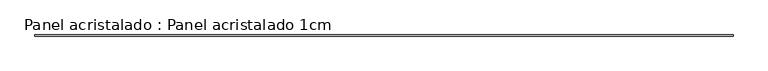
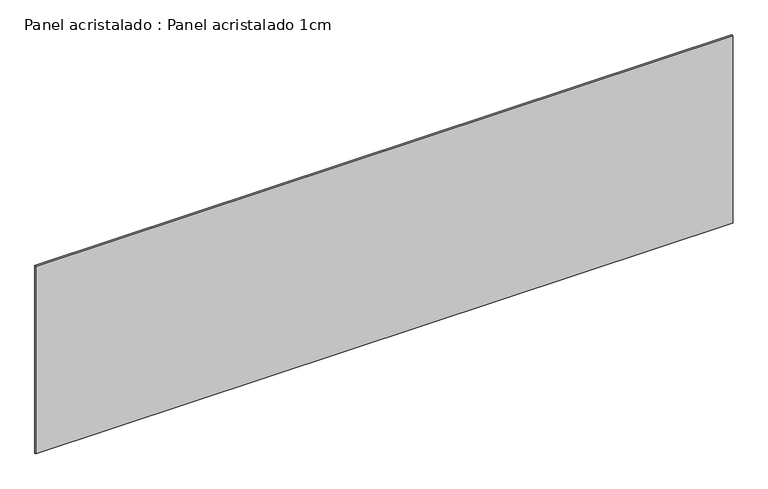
"""IFC4 building model written with IfcOpenShell, lengths in millimetres: plate geometry, Panel acristalado : Panel acristalado 1cm."""

import ifcopenshell
import ifcopenshell.guid

model = None  # the IFC model being written
_history = None  # IfcOwnerHistory: only IFC2X3 demands one
_inside = {}  # id of a spatial element -> (the spatial element, [elements in it])
_under = {}  # id of a project, library or spatial element -> (it, [spatial elements below it])
_declared = {}  # id of a project -> (the project, [libraries it declares])
_typed = {}  # id of a type object -> (the type object, [elements of that type])
_made_of = {}  # id of a material, layer set ... -> (it, [elements and type objects made of it])


def new_model(schema):
    """Start an empty IFC model of exactly this schema.

    Asked for "IFC4X3", IfcOpenShell would pick the latest addendum, in which some entities
    have other attributes; the version numbers below select the first issue.
    IFC2X3 requires an IfcOwnerHistory on every rooted entity: one is made here for all.
    """
    global model, _history
    if schema == "IFC4X3":
        model = ifcopenshell.file(schema_version=(4, 3, 0, 0))
    else:
        model = ifcopenshell.file(schema=schema)
    _inside.clear()
    _under.clear()
    _declared.clear()
    _typed.clear()
    _made_of.clear()
    _history = None
    if model.schema == "IFC2X3":
        org = make("IfcOrganization", Name="unknown")
        user = make(
            "IfcPersonAndOrganization",
            ThePerson=make("IfcPerson", FamilyName="unknown"),
            TheOrganization=org,
        )
        app = make(
            "IfcApplication",
            ApplicationDeveloper=org,
            Version="unknown",
            ApplicationFullName="unknown",
            ApplicationIdentifier="unknown",
        )
        _history = make(
            "IfcOwnerHistory",
            OwningUser=user,
            OwningApplication=app,
            ChangeAction="ADDED",
            CreationDate=0,
        )
    return model


def make(cls, **values):
    """One entity of the class cls with the attributes given. An attribute that is None is left unset."""
    return model.create_entity(
        cls, **{name: value for name, value in values.items() if value is not None}
    )


def rooted(cls, **values):
    """An entity with a GlobalId (a new one), such as an element, a storey or a relation."""
    return make(cls, GlobalId=ifcopenshell.guid.new(), OwnerHistory=_history, **values)


def si_unit(unit_type, name, prefix=None):
    """IfcSIUnit, for example si_unit("LENGTHUNIT", "METRE", prefix="MILLI")."""
    return make("IfcSIUnit", UnitType=unit_type, Prefix=prefix, Name=name)


def assignment(units):
    """IfcUnitAssignment: the units of a project."""
    return None if units is None else make("IfcUnitAssignment", Units=units)


def point(xyz):
    """IfcCartesianPoint."""
    return None if xyz is None else make("IfcCartesianPoint", Coordinates=xyz)


def direction(xyz):
    """IfcDirection."""
    return None if xyz is None else make("IfcDirection", DirectionRatios=xyz)


def frame(location, z_axis=None, x_axis=None):
    """IfcAxis2Placement3D, a coordinate frame: its origin and axes. An axis left out is left unset."""
    return make(
        "IfcAxis2Placement3D",
        Location=point(location),
        Axis=direction(z_axis),
        RefDirection=direction(x_axis),
    )


def origin():
    """The frame at (0, 0, 0) with its axes left unset."""
    return frame((0.0, 0.0, 0.0))


def origin_with_axes():
    """The frame at (0, 0, 0) with the z axis (0, 0, 1) and the x axis (1, 0, 0) written out."""
    return frame((0.0, 0.0, 0.0), z_axis=(0.0, 0.0, 1.0), x_axis=(1.0, 0.0, 0.0))


def place(relative_to, where):
    """IfcLocalPlacement: puts the frame where relative to a parent placement (None: the world)."""
    return make(
        "IfcLocalPlacement", PlacementRelTo=relative_to, RelativePlacement=where
    )


def context(
    kind, dimensions, precision=None, world=None, true_north=None, identifier=None
):
    """IfcGeometricRepresentationContext, for example the 3D "Model" context."""
    return make(
        "IfcGeometricRepresentationContext",
        ContextIdentifier=identifier,
        ContextType=kind,
        CoordinateSpaceDimension=dimensions,
        Precision=precision,
        WorldCoordinateSystem=world,
        TrueNorth=true_north,
    )


def project(units=None, contexts=None):
    """IfcProject with its units and contexts."""
    return rooted(
        "IfcProject",
        Name="project",
        RepresentationContexts=contexts,
        UnitsInContext=assignment(units),
    )


def spatial(cls, under=None, at=None, **own):
    """A site, building, storey or space (cls), placed at a placement, below another one or the project."""
    s = rooted(cls, ObjectPlacement=at, **own)
    if under is not None:
        _under.setdefault(under.id(), (under, []))[1].append(s)
    return s


def polyline(points):
    """IfcPolyline through the points."""
    return make("IfcPolyline", Points=[point(p) for p in points])


def outline(outer, holes=None, kind="AREA"):
    """IfcArbitraryClosedProfileDef: a profile drawn as a closed curve; with holes, ...WithVoids."""
    if holes is None:
        return make("IfcArbitraryClosedProfileDef", ProfileType=kind, OuterCurve=outer)
    return make(
        "IfcArbitraryProfileDefWithVoids",
        ProfileType=kind,
        OuterCurve=outer,
        InnerCurves=holes,
    )


def extrude(swept, where, along, depth):
    """IfcExtrudedAreaSolid: the profile swept, set in the frame where, extruded along a direction by depth."""
    return make(
        "IfcExtrudedAreaSolid",
        SweptArea=swept,
        Position=where,
        ExtrudedDirection=direction(along),
        Depth=depth,
    )


def shape(context_of_items, identifier, shape_type, items):
    """IfcShapeRepresentation: the items that make up one representation, for example the "Body"."""
    return make(
        "IfcShapeRepresentation",
        ContextOfItems=context_of_items,
        RepresentationIdentifier=identifier,
        RepresentationType=shape_type,
        Items=items,
    )


def source(mapping_origin, context_of_items, identifier, shape_type, items):
    """IfcRepresentationMap: a shape defined once, which mapped items show again and again."""
    return make(
        "IfcRepresentationMap",
        MappingOrigin=mapping_origin,
        MappedRepresentation=shape(context_of_items, identifier, shape_type, items),
    )


def transform(
    local_origin,
    x_axis=None,
    y_axis=None,
    z_axis=None,
    scale=None,
    scale2=None,
    scale3=None,
    uniform=True,
):
    """IfcCartesianTransformationOperator3D, or its non-uniform kind. x_axis, y_axis, z_axis: its Axis1, 2, 3."""
    if uniform:
        return make(
            "IfcCartesianTransformationOperator3D",
            Axis1=direction(x_axis),
            Axis2=direction(y_axis),
            LocalOrigin=point(local_origin),
            Scale=scale,
            Axis3=direction(z_axis),
        )
    return make(
        "IfcCartesianTransformationOperator3DnonUniform",
        Axis1=direction(x_axis),
        Axis2=direction(y_axis),
        LocalOrigin=point(local_origin),
        Scale=scale,
        Axis3=direction(z_axis),
        Scale2=scale2,
        Scale3=scale3,
    )


def mapped(mapping_source, mapping_target):
    """IfcMappedItem: shows the shape of a source again, moved by a transform."""
    return make(
        "IfcMappedItem", MappingSource=mapping_source, MappingTarget=mapping_target
    )


def made_of(thing, what):
    """Note that an element or type object is made of a material, layer set ...; save() writes the relation."""
    if what is not None:
        _made_of.setdefault(what.id(), (what, []))[1].append(thing)
    return thing


def element(
    cls,
    number,
    at=None,
    inside=None,
    cuts=None,
    type_object=None,
    material=None,
    context=None,
    identifier="Body",
    shape_type=None,
    held_by="IfcProductDefinitionShape",
    body=None,
    shapes=None,
    **own,
):
    """One element of the class cls, such as IfcWall. Its Tag is "e" and its number.

    at: its placement. inside: the storey or other place that contains it. cuts: it is an
    opening in that element (IfcRelVoidsElement). A single representation is given by context,
    identifier, shape_type and body (its items); several are given by shapes. held_by: the class
    of the entity that holds the representations. save() writes the other relations.
    """
    e = rooted(cls, Tag="e%d" % number, ObjectPlacement=at, **own)
    if body is not None:
        shapes = [shape(context, identifier, shape_type, body)]
    if shapes is not None:
        e.Representation = make(held_by, Representations=shapes)
    if inside is not None:
        _inside.setdefault(inside.id(), (inside, []))[1].append(e)
    if cuts is not None:
        rooted(
            "IfcRelVoidsElement", RelatingBuildingElement=cuts, RelatedOpeningElement=e
        )
    if type_object is not None:
        _typed.setdefault(type_object.id(), (type_object, []))[1].append(e)
    return made_of(e, material)


def aggregate(whole, parts):
    """IfcRelAggregates: a whole, such as a stair, and the parts it consists of."""
    return rooted("IfcRelAggregates", RelatingObject=whole, RelatedObjects=parts)


def save(model, path):
    """Write the relations noted so far, then the file.

    IfcRelAggregates (storeys below a building ...), IfcRelContainedInSpatialStructure (elements
    in a storey), IfcRelDefinesByType, IfcRelAssociatesMaterial and IfcRelDeclares: one each for
    every whole, place, type object, material and project.
    """
    for whole, parts in _under.values():
        aggregate(whole, parts)
    for where, things in _inside.values():
        rooted(
            "IfcRelContainedInSpatialStructure",
            RelatedElements=things,
            RelatingStructure=where,
        )
    for kind, things in _typed.values():
        rooted("IfcRelDefinesByType", RelatedObjects=things, RelatingType=kind)
    for what, things in _made_of.values():
        rooted("IfcRelAssociatesMaterial", RelatedObjects=things, RelatingMaterial=what)
    for by, libraries in _declared.values():
        rooted("IfcRelDeclares", RelatingContext=by, RelatedDefinitions=libraries)
    model.write(path)


def panel_acristalado_panel_acristalado_1cm_5b8627b4(model_context):
    return source(origin(), model_context, "Body", "SweptSolid", [
        extrude(outline(polyline([(3180.0000319, -5.0), (-3180.0000319, -5.0), (-3180.0000319, 5.0), (3180.0000319, 5.0), (3180.0000319, -5.0)])), origin_with_axes(), (0.0, 0.0, 1.0), 1810.0),
    ])


if __name__ == "__main__":
    model = new_model("IFC4")
    model_context = context("Model", 3, world=origin())
    ifc_project = project(units=[si_unit("LENGTHUNIT", "METRE", prefix="MILLI")], contexts=[model_context])
    site = spatial("IfcSite", under=ifc_project)
    building = spatial("IfcBuilding", under=site)
    placement = place(None, origin())
    panel_acristalado_panel_acristalado_1cm_shape = panel_acristalado_panel_acristalado_1cm_5b8627b4(model_context)
    element("IfcPlate", 1, ObjectType="Panel acristalado : Panel acristalado 1cm", at=placement, inside=building, context=model_context, shape_type="MappedRepresentation", body=[
        mapped(panel_acristalado_panel_acristalado_1cm_shape, transform((0.0, 0.0, 0.0), x_axis=(1.0, 0.0, 0.0), y_axis=(0.0, 1.0, 0.0), z_axis=(0.0, 0.0, 1.0))),
    ])
    save(model, "model.ifc")
